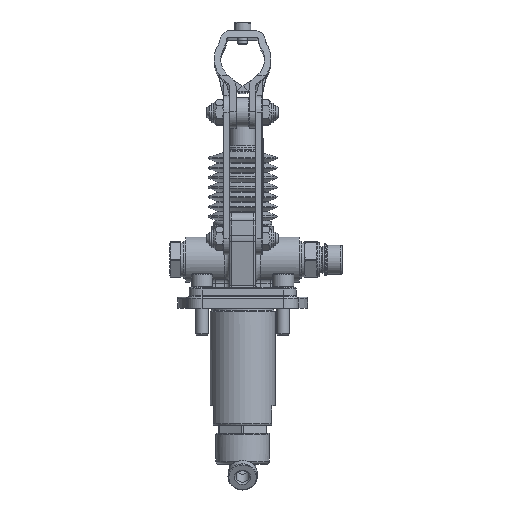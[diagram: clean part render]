
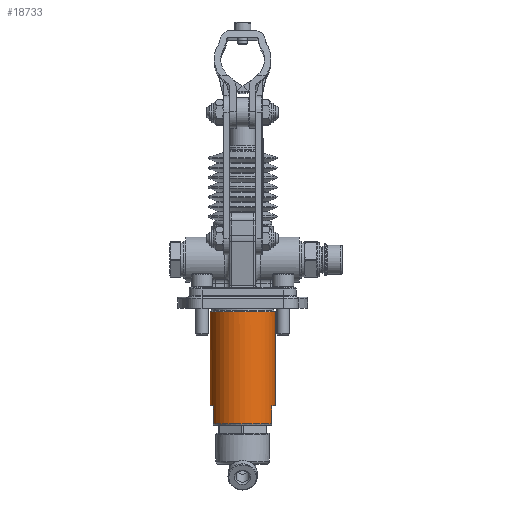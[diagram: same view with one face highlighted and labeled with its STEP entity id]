
A CAD part, left-side view. The second image highlights one B-rep face of the part: STEP entity #18733.
In plain terms, the highlighted cylindrical face has radius 20 mm (diameter 40 mm), a full revolution.
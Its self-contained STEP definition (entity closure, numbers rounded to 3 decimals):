
#18434=CARTESIAN_POINT('',(67.718,52.,-61.));
#18435=VERTEX_POINT('',#18434);
#18436=CARTESIAN_POINT('',(50.282,52.,-61.));
#18437=VERTEX_POINT('',#18436);
#18438=CARTESIAN_POINT('',(59.,34.,-61.));
#18439=DIRECTION('',(0.0,0.0,1.0));
#18440=DIRECTION('',(-1.0,0.0,0.0));
#18441=AXIS2_PLACEMENT_3D('',#18438,#18439,#18440);
#18442=CIRCLE('',#18441,20.0);
#18443=EDGE_CURVE('',#18435,#18437,#18442,.T.);
#18459=CARTESIAN_POINT('',(50.282,52.,-72.));
#18460=VERTEX_POINT('',#18459);
#18476=CARTESIAN_POINT('',(50.282,52.,-61.));
#18477=DIRECTION('',(0.0,0.0,-1.0));
#18478=VECTOR('',#18477,11.0);
#18479=LINE('',#18476,#18478);
#18480=EDGE_CURVE('',#18437,#18460,#18479,.T.);
#18483=CARTESIAN_POINT('',(67.718,52.,-72.));
#18484=VERTEX_POINT('',#18483);
#18485=CARTESIAN_POINT('',(67.718,52.,-72.));
#18486=DIRECTION('',(0.0,0.0,1.0));
#18487=VECTOR('',#18486,11.0);
#18488=LINE('',#18485,#18487);
#18489=EDGE_CURVE('',#18484,#18435,#18488,.T.);
#18520=CARTESIAN_POINT('',(67.718,16.,-61.));
#18521=VERTEX_POINT('',#18520);
#18522=CARTESIAN_POINT('',(67.718,16.,-72.));
#18523=VERTEX_POINT('',#18522);
#18524=CARTESIAN_POINT('',(67.718,16.,-61.));
#18525=DIRECTION('',(0.0,0.0,-1.0));
#18526=VECTOR('',#18525,11.0);
#18527=LINE('',#18524,#18526);
#18528=EDGE_CURVE('',#18521,#18523,#18527,.T.);
#18530=CARTESIAN_POINT('',(50.282,16.,-61.));
#18531=VERTEX_POINT('',#18530);
#18538=CARTESIAN_POINT('',(50.282,16.,-72.));
#18539=VERTEX_POINT('',#18538);
#18540=CARTESIAN_POINT('',(50.282,16.,-72.));
#18541=DIRECTION('',(0.0,0.0,1.0));
#18542=VECTOR('',#18541,11.0);
#18543=LINE('',#18540,#18542);
#18544=EDGE_CURVE('',#18539,#18531,#18543,.T.);
#18590=CARTESIAN_POINT('',(59.,34.,-61.));
#18591=DIRECTION('',(0.0,0.0,1.0));
#18592=DIRECTION('',(-1.0,0.0,0.0));
#18593=AXIS2_PLACEMENT_3D('',#18590,#18591,#18592);
#18594=CIRCLE('',#18593,20.0);
#18595=EDGE_CURVE('',#18531,#18521,#18594,.T.);
#18607=CARTESIAN_POINT('',(59.,34.,-72.));
#18608=DIRECTION('',(0.0,0.0,-1.0));
#18609=DIRECTION('',(-1.0,0.0,0.0));
#18610=AXIS2_PLACEMENT_3D('',#18607,#18608,#18609);
#18611=CIRCLE('',#18610,20.0);
#18612=EDGE_CURVE('',#18484,#18523,#18611,.T.);
#18697=CARTESIAN_POINT('',(59.,34.,-72.));
#18698=DIRECTION('',(0.0,0.0,-1.0));
#18699=DIRECTION('',(-1.0,0.0,0.0));
#18700=AXIS2_PLACEMENT_3D('',#18697,#18698,#18699);
#18701=CIRCLE('',#18700,20.0);
#18702=EDGE_CURVE('',#18539,#18460,#18701,.T.);
#18707=CARTESIAN_POINT('',(59.,34.,-73.));
#18708=DIRECTION('',(0.,0.,1.0));
#18709=DIRECTION('',(-1.0,0.0,0.0));
#18710=AXIS2_PLACEMENT_3D('',#18707,#18708,#18709);
#18711=CYLINDRICAL_SURFACE('',#18710,20.0);
#18712=ORIENTED_EDGE('',*,*,#18480,.T.);
#18713=ORIENTED_EDGE('',*,*,#18702,.F.);
#18714=ORIENTED_EDGE('',*,*,#18544,.T.);
#18715=ORIENTED_EDGE('',*,*,#18595,.T.);
#18716=ORIENTED_EDGE('',*,*,#18528,.T.);
#18717=ORIENTED_EDGE('',*,*,#18612,.F.);
#18718=ORIENTED_EDGE('',*,*,#18489,.T.);
#18719=ORIENTED_EDGE('',*,*,#18443,.T.);
#18720=EDGE_LOOP('',(#18712,#18713,#18714,#18715,#18716,#18717,#18718,#18719));
#18721=FACE_OUTER_BOUND('',#18720,.T.);
#18722=CARTESIAN_POINT('',(79.,34.0,-3.));
#18723=VERTEX_POINT('',#18722);
#18724=CARTESIAN_POINT('',(59.,34.,-3.));
#18725=DIRECTION('',(0.0,0.0,1.0));
#18726=DIRECTION('',(-1.0,0.0,0.0));
#18727=AXIS2_PLACEMENT_3D('',#18724,#18725,#18726);
#18728=CIRCLE('',#18727,20.0);
#18729=EDGE_CURVE('',#18723,#18723,#18728,.T.);
#18730=ORIENTED_EDGE('',*,*,#18729,.F.);
#18731=EDGE_LOOP('',(#18730));
#18732=FACE_BOUND('',#18731,.T.);
#18733=ADVANCED_FACE('',(#18721,#18732),#18711,.T.);
